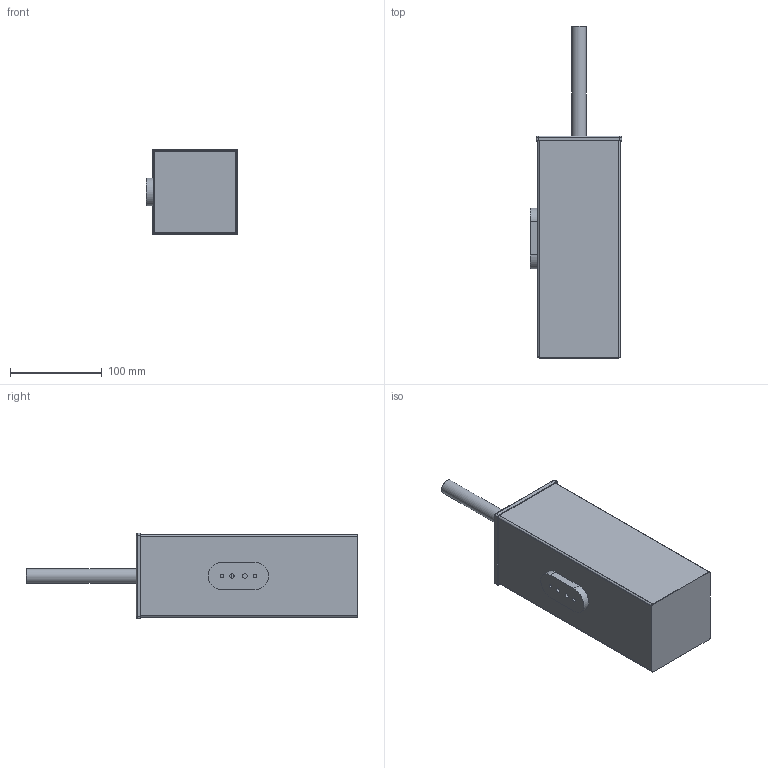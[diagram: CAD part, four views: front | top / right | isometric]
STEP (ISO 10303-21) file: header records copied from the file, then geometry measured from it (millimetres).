
FILE_DESCRIPTION(/* description */ (''),/* implementation_level */ '2;1');
FILE_NAME(/* name */ 'D:\DABSTORY\Folder Marcel dysk E 16.03.2020\Marcel\DABSTORY\Produkty DABSTORY\Dla Architektów\Modele DABSTORY\21. Szczotka do WC MUGO - wisząca\Szczotka do WC MUGO - wisząca.stp',/* time_stamp */ '2020-08-17T12:42:50+02:00',/* author */ ('Verical'),/* organization */ (''),/* preprocessor_version */ 'ST-DEVELOPER v17',/* originating_system */ 'Autodesk Inventor 2018',/* authorisation */ '');
FILE_SCHEMA (('AUTOMOTIVE_DESIGN { 1 0 10303 214 3 1 1 }'));
Length unit declared in the file: millimetre
Products named in the file (1): Szczotka do WC MUGO - wisząca
Bounding box: 99.5 x 361 x 93 mm (x, y, z)
Volume: 109549.7 mm3; surface area: 218334.1 mm2
Topology: 1 solids, 3 shells, 81 faces, 193 edges, 127 vertices
Faces by surface type: plane 39, cylinder 36, bspline 4, cone 2
Full cylindrical faces by diameter (mm): 4 x2, 5 x2, 8.376 x1, 10 x1, 12 x2, 14 x1, 16 x1
Entity records: 2433 total; most frequent: DIRECTION 436, CARTESIAN_POINT 433, ORIENTED_EDGE 384, EDGE_CURVE 192, AXIS2_PLACEMENT_3D 166, VERTEX_POINT 127, LINE 104, VECTOR 104
